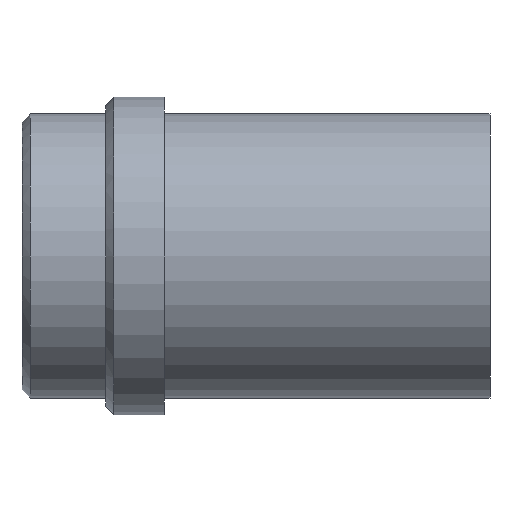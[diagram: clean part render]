
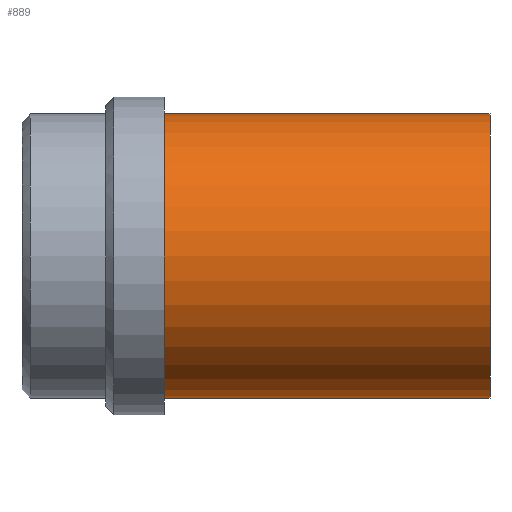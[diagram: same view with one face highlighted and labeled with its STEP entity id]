
A CAD part, front view. The second image highlights one B-rep face of the part: STEP entity #889.
In plain terms, the highlighted cylindrical face has radius 17 mm (diameter 34 mm), a partial arc.
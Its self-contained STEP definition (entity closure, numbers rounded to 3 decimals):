
#723=CARTESIAN_POINT('Vertex',(39.,0.,17.)) ;
#726=CARTESIAN_POINT('Axis2P3D Location',(39.,0.,0.)) ;
#730=CARTESIAN_POINT('Vertex',(39.,-17.,0.)) ;
#733=CARTESIAN_POINT('Axis2P3D Location',(39.,0.,0.)) ;
#737=CARTESIAN_POINT('Vertex',(39.,0.,-17.)) ;
#829=CARTESIAN_POINT('Line Origine',(39.,0.,17.)) ;
#833=CARTESIAN_POINT('Vertex',(0.,0.,17.)) ;
#836=CARTESIAN_POINT('Line Origine',(39.,0.,-17.)) ;
#840=CARTESIAN_POINT('Vertex',(0.,0.,-17.)) ;
#864=CARTESIAN_POINT('Axis2P3D Location',(39.,0.,0.)) ;
#869=CARTESIAN_POINT('Axis2P3D Location',(0.,0.,0.)) ;
#873=CARTESIAN_POINT('Vertex',(0.,-17.,0.)) ;
#876=CARTESIAN_POINT('Axis2P3D Location',(0.,0.,0.)) ;
#727=DIRECTION('Axis2P3D Direction',(1.,0.,-0.)) ;
#734=DIRECTION('Axis2P3D Direction',(1.,0.,-0.)) ;
#830=DIRECTION('Vector Direction',(-1.,0.,0.)) ;
#837=DIRECTION('Vector Direction',(-1.,0.,0.)) ;
#865=DIRECTION('Axis2P3D Direction',(-1.,-0.,-0.)) ;
#866=DIRECTION('Axis2P3D XDirection',(0.,0.,-1.)) ;
#870=DIRECTION('Axis2P3D Direction',(-1.,-0.,-0.)) ;
#877=DIRECTION('Axis2P3D Direction',(-1.,-0.,-0.)) ;
#728=AXIS2_PLACEMENT_3D('Circle Axis2P3D',#726,#727,$) ;
#735=AXIS2_PLACEMENT_3D('Circle Axis2P3D',#733,#734,$) ;
#867=AXIS2_PLACEMENT_3D('Cylinder Axis2P3D',#864,#865,#866) ;
#871=AXIS2_PLACEMENT_3D('Circle Axis2P3D',#869,#870,$) ;
#878=AXIS2_PLACEMENT_3D('Circle Axis2P3D',#876,#877,$) ;
#882=ORIENTED_EDGE('',*,*,#842,.T.) ;
#883=ORIENTED_EDGE('',*,*,#739,.F.) ;
#884=ORIENTED_EDGE('',*,*,#732,.F.) ;
#885=ORIENTED_EDGE('',*,*,#835,.T.) ;
#886=ORIENTED_EDGE('',*,*,#875,.T.) ;
#887=ORIENTED_EDGE('',*,*,#880,.T.) ;
#831=VECTOR('Line Direction',#830,1.) ;
#838=VECTOR('Line Direction',#837,1.) ;
#889=ADVANCED_FACE('358-25X56',(#888),#868,.T.) ;
#729=CIRCLE('generated circle',#728,17.) ;
#736=CIRCLE('generated circle',#735,17.) ;
#872=CIRCLE('generated circle',#871,17.) ;
#879=CIRCLE('generated circle',#878,17.) ;
#868=CYLINDRICAL_SURFACE('generated cylinder',#867,17.) ;
#732=EDGE_CURVE('',#724,#731,#729,.T.) ;
#739=EDGE_CURVE('',#731,#738,#736,.T.) ;
#835=EDGE_CURVE('',#724,#834,#832,.T.) ;
#842=EDGE_CURVE('',#841,#738,#839,.F.) ;
#875=EDGE_CURVE('',#834,#874,#872,.F.) ;
#880=EDGE_CURVE('',#874,#841,#879,.F.) ;
#881=EDGE_LOOP('',(#882,#883,#884,#885,#886,#887)) ;
#888=FACE_OUTER_BOUND('',#881,.T.) ;
#832=LINE('Line',#829,#831) ;
#839=LINE('Line',#836,#838) ;
#724=VERTEX_POINT('',#723) ;
#731=VERTEX_POINT('',#730) ;
#738=VERTEX_POINT('',#737) ;
#834=VERTEX_POINT('',#833) ;
#841=VERTEX_POINT('',#840) ;
#874=VERTEX_POINT('',#873) ;
